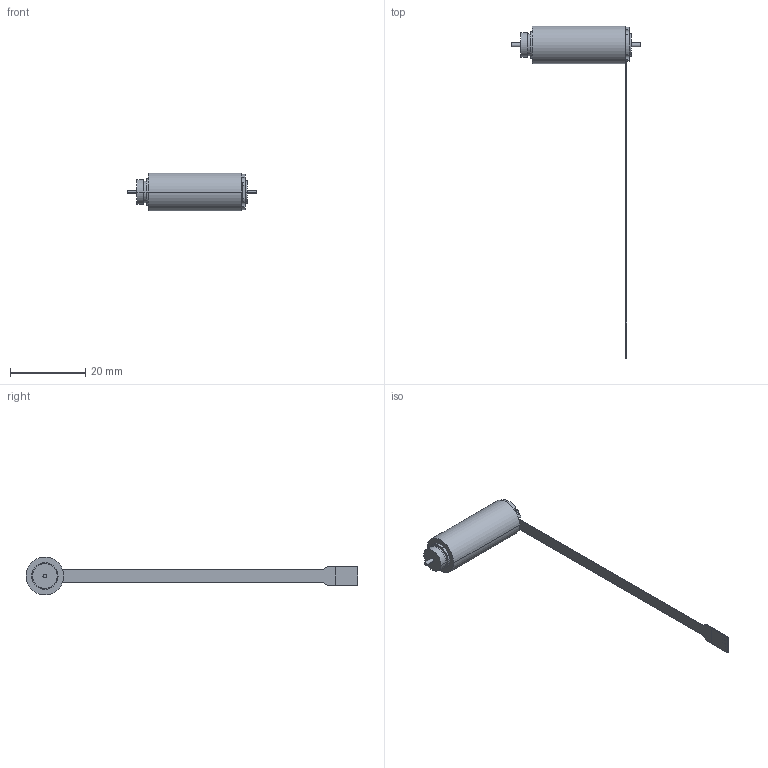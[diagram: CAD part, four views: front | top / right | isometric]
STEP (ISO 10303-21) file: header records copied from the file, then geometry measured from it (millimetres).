
FILE_DESCRIPTION((''),'2;1');
FILE_NAME('315174_EC10_8W_B','2016-10-17T',('mmagpetk'),(''),'CREO PARAMETRIC BY PTC INC, 2016050','CREO PARAMETRIC BY PTC INC, 2016050','');
FILE_SCHEMA(('CONFIG_CONTROL_DESIGN'));
Length unit declared in the file: millimetre
Products named in the file (1): 315174_EC10_8W_B
Bounding box: 34.4 x 88 x 10 mm (x, y, z)
Volume: 2175.7 mm3; surface area: 1641.7 mm2
Topology: 1 solids, 1 shells, 70 faces, 180 edges, 120 vertices
Faces by surface type: plane 41, cylinder 29
Entity records: 2797 total; most frequent: DIRECTION 378, CARTESIAN_POINT 370, ORIENTED_EDGE 360, PRESENTATION_STYLE_ASSIGNMENT 181, STYLED_ITEM 181, CURVE_STYLE 180, EDGE_CURVE 180, AXIS2_PLACEMENT_3D 128
